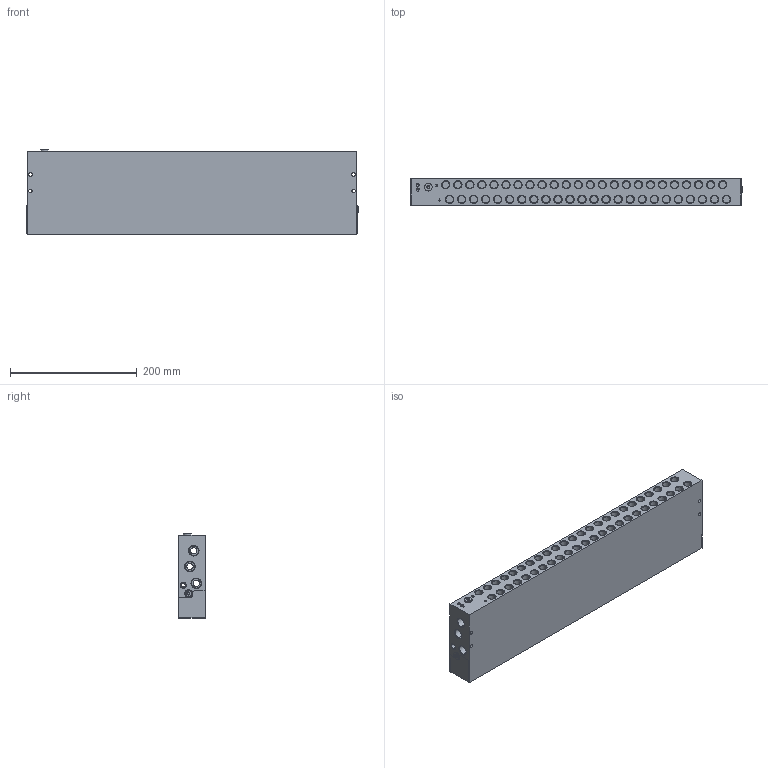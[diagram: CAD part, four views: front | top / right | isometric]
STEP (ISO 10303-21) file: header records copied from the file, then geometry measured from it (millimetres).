
FILE_DESCRIPTION (( 'STEP AP214' ), '1' );
FILE_NAME ('GÖVDE.STEP', '2026-07-24T12:15:29', ( '' ), ( '' ), 'SwSTEP 2.0', 'SolidWorks 2023', '' );
FILE_SCHEMA (( 'AUTOMOTIVE_DESIGN' ));
Length unit declared in the file: millimetre
Products named in the file (5): _VGVT-M18-24-RRRRBBBBBBBBBBBBBBBBBBBB-L(520)_huiliuban; TGVT-M18-24-24M-L(2); GÖVDE; _VGVT18_dutou_3; _VGVT-M18-24_fajietou
Assembly tree (5 placements, depth 3):
  GÖVDE
    TGVT-M18-24-24M-L(2)
      _VGVT-M18-24-RRRRBBBBBBBBBBBBBBBBBBBB-L(520)_huiliuban
      _VGVT18_dutou_3  x3
  _VGVT-M18-24_fajietou
Bounding box: 524 x 42.5 x 133 mm (x, y, z)
Volume: 2630025.5 mm3; surface area: 301114.5 mm2
Topology: 4 solids, 4 shells, 691 faces, 1609 edges, 1016 vertices
Faces by surface type: cylinder 292, plane 241, cone 158
Entity records: 19123 total; most frequent: DIRECTION 3517, CARTESIAN_POINT 3496, ORIENTED_EDGE 3018, EDGE_CURVE 1509, AXIS2_PLACEMENT_3D 1360, VERTEX_POINT 960, VECTOR 797, LINE 797
